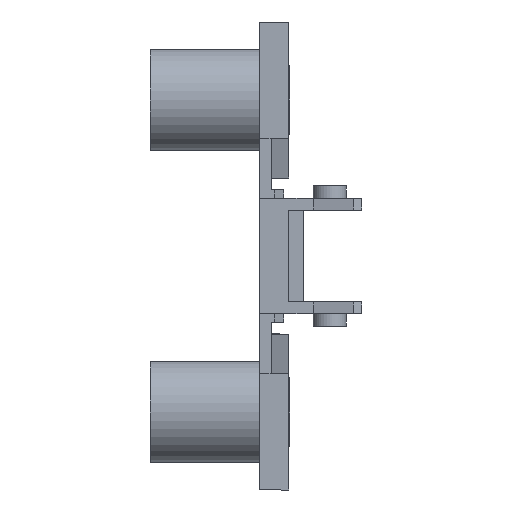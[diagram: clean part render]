
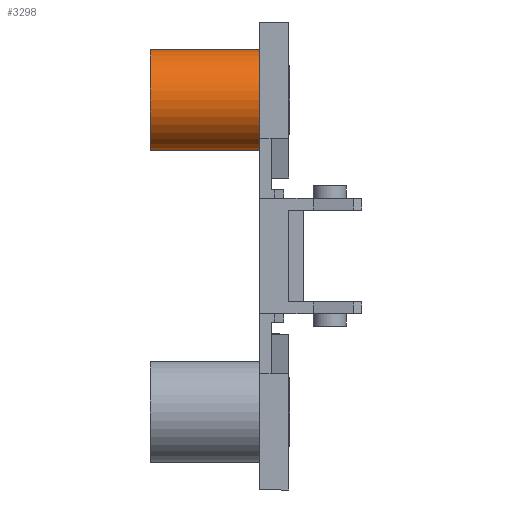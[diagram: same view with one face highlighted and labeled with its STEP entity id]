
A CAD part, front view. The second image highlights one B-rep face of the part: STEP entity #3298.
In plain terms, the highlighted cylindrical face has radius 5.2 mm (diameter 10.4 mm), a partial arc.
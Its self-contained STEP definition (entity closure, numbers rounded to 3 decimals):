
#65 = CARTESIAN_POINT ( 'NONE',  ( 0., 0., 21.2 ) ) ;
#82 = DIRECTION ( 'NONE',  ( 1., 0., 0. ) ) ;
#194 = DIRECTION ( 'NONE',  ( 0., 0., -1. ) ) ;
#242 = VECTOR ( 'NONE', #82, 1000. ) ;
#245 = CARTESIAN_POINT ( 'NONE',  ( -11.2, 0., 21.2 ) ) ;
#360 = LINE ( 'NONE', #755, #3571 ) ;
#409 = CARTESIAN_POINT ( 'NONE',  ( -11.2, 0., 16. ) ) ;
#672 = FACE_OUTER_BOUND ( 'NONE', #2001, .T. ) ;
#682 = EDGE_CURVE ( 'NONE', #2595, #1526, #2027, .T. ) ;
#694 = CIRCLE ( 'NONE', #2872, 5.2 ) ;
#713 = ORIENTED_EDGE ( 'NONE', *, *, #1719, .F. ) ;
#755 = CARTESIAN_POINT ( 'NONE',  ( -11.2, 0., 10.8 ) ) ;
#757 = DIRECTION ( 'NONE',  ( -1., 0., 0. ) ) ;
#820 = LINE ( 'NONE', #2013, #242 ) ;
#849 = CYLINDRICAL_SURFACE ( 'NONE', #2113, 5.2 ) ;
#956 = DIRECTION ( 'NONE',  ( 1., 0., 0. ) ) ;
#1005 = VERTEX_POINT ( 'NONE', #65 ) ;
#1056 = CARTESIAN_POINT ( 'NONE',  ( 0., 0., 16. ) ) ;
#1107 = ORIENTED_EDGE ( 'NONE', *, *, #682, .F. ) ;
#1108 = CARTESIAN_POINT ( 'NONE',  ( 0., 0., 10.8 ) ) ;
#1473 = EDGE_CURVE ( 'NONE', #1579, #1005, #694, .T. ) ;
#1494 = ORIENTED_EDGE ( 'NONE', *, *, #3592, .T. ) ;
#1526 = VERTEX_POINT ( 'NONE', #245 ) ;
#1579 = VERTEX_POINT ( 'NONE', #1108 ) ;
#1630 = ORIENTED_EDGE ( 'NONE', *, *, #1473, .T. ) ;
#1689 = CARTESIAN_POINT ( 'NONE',  ( -11.2, 0., 10.8 ) ) ;
#1719 = EDGE_CURVE ( 'NONE', #1526, #1005, #820, .T. ) ;
#1867 = DIRECTION ( 'NONE',  ( 0., 0., 1. ) ) ;
#2001 = EDGE_LOOP ( 'NONE', ( #713, #1107, #1494, #1630 ) ) ;
#2013 = CARTESIAN_POINT ( 'NONE',  ( -11.2, 0., 21.2 ) ) ;
#2027 = CIRCLE ( 'NONE', #2756, 5.2 ) ;
#2113 = AXIS2_PLACEMENT_3D ( 'NONE', #3450, #956, #2885 ) ;
#2130 = DIRECTION ( 'NONE',  ( -1., 0., 0. ) ) ;
#2427 = DIRECTION ( 'NONE',  ( 1., 0., 0. ) ) ;
#2595 = VERTEX_POINT ( 'NONE', #1689 ) ;
#2756 = AXIS2_PLACEMENT_3D ( 'NONE', #409, #2130, #1867 ) ;
#2872 = AXIS2_PLACEMENT_3D ( 'NONE', #1056, #757, #194 ) ;
#2885 = DIRECTION ( 'NONE',  ( 0., 0., -1. ) ) ;
#3298 = ADVANCED_FACE ( 'NONE', ( #672 ), #849, .T. ) ;
#3450 = CARTESIAN_POINT ( 'NONE',  ( -11.2, 0., 16. ) ) ;
#3571 = VECTOR ( 'NONE', #2427, 1000. ) ;
#3592 = EDGE_CURVE ( 'NONE', #2595, #1579, #360, .T. ) ;
